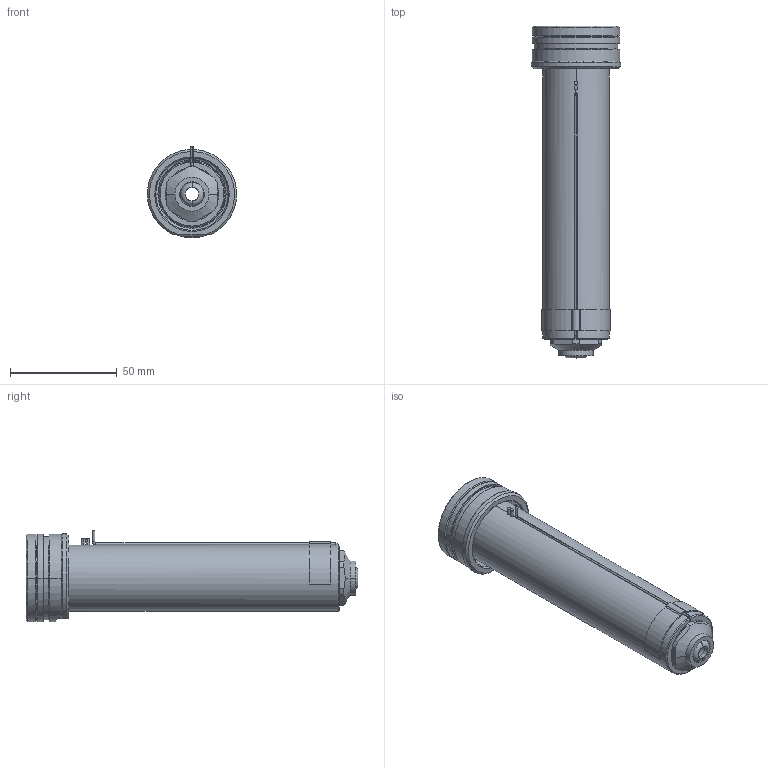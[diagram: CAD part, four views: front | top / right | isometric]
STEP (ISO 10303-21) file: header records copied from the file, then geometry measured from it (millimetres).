
FILE_DESCRIPTION((''),'2;1');
FILE_NAME('EO12_VG-BL_WR_140_SW','2024-02-19T13:16:44',('sundharh'),(''),'CREO PARAMETRIC BY PTC INC, 2023154','CREO PARAMETRIC BY PTC INC, 2023154','');
FILE_SCHEMA(('CONFIG_CONTROL_DESIGN'));
Length unit declared in the file: millimetre
Products named in the file (1): EO12_VG-BL_WR_140_SW
Bounding box: 41.85 x 155.8 x 43 mm (x, y, z)
Volume: 105411.8 mm3; surface area: 28994.8 mm2
Topology: 2 solids, 3 shells, 204 faces, 498 edges, 300 vertices
Faces by surface type: cylinder 73, plane 46, cone 39, torus 35, bspline 9, sphere 2
Entity records: 6833 total; most frequent: CARTESIAN_POINT 1929, DIRECTION 1100, ORIENTED_EDGE 988, EDGE_CURVE 494, AXIS2_PLACEMENT_3D 464, VERTEX_POINT 300, CIRCLE 269, EDGE_LOOP 220
